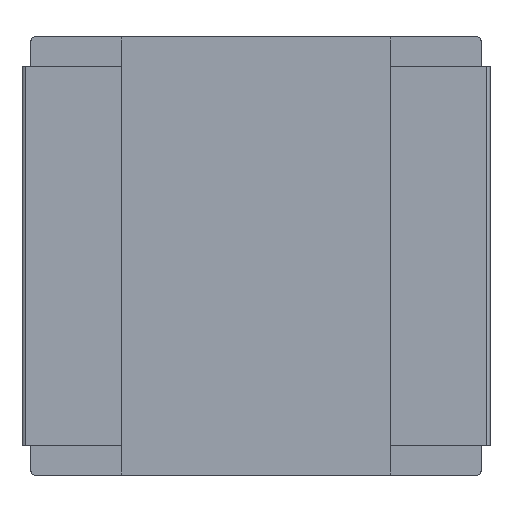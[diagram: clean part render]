
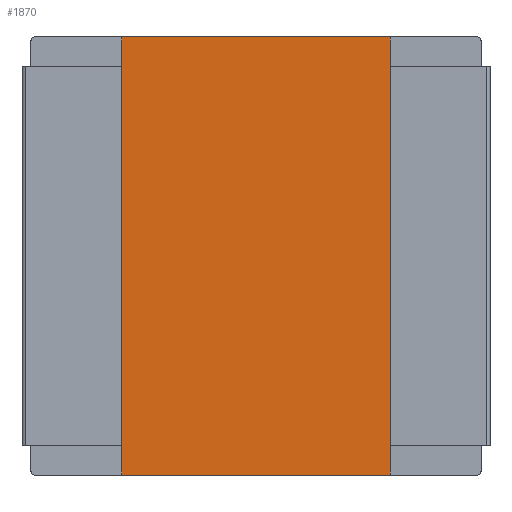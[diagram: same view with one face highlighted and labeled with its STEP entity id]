
A CAD part, front view. The second image highlights one B-rep face of the part: STEP entity #1870.
In plain terms, the highlighted planar face has unit normal (0, -1, 0).
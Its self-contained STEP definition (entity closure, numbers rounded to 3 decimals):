
#140 = CARTESIAN_POINT ( 'NONE',  ( -6.75, 0., 0. ) ) ;
#199 = DIRECTION ( 'NONE',  ( 0., 0., 1. ) ) ;
#207 = LINE ( 'NONE', #4783, #3518 ) ;
#230 = LINE ( 'NONE', #5365, #3666 ) ;
#411 = VECTOR ( 'NONE', #2734, 1000. ) ;
#440 = DIRECTION ( 'NONE',  ( 0., 1., 0. ) ) ;
#546 = EDGE_CURVE ( 'NONE', #1547, #1427, #230, .T. ) ;
#592 = DIRECTION ( 'NONE',  ( 0., 0., 1. ) ) ;
#610 = CARTESIAN_POINT ( 'NONE',  ( -6.75, 0., -11. ) ) ;
#739 = VECTOR ( 'NONE', #199, 1000. ) ;
#782 = CARTESIAN_POINT ( 'NONE',  ( -6.75, 0., 0. ) ) ;
#871 = CARTESIAN_POINT ( 'NONE',  ( 0., 0., 0. ) ) ;
#1121 = VERTEX_POINT ( 'NONE', #1755 ) ;
#1188 = LINE ( 'NONE', #140, #4346 ) ;
#1284 = VERTEX_POINT ( 'NONE', #3389 ) ;
#1427 = VERTEX_POINT ( 'NONE', #2633 ) ;
#1547 = VERTEX_POINT ( 'NONE', #3564 ) ;
#1712 = VERTEX_POINT ( 'NONE', #4181 ) ;
#1718 = CARTESIAN_POINT ( 'NONE',  ( -11.3, 0., -11. ) ) ;
#1755 = CARTESIAN_POINT ( 'NONE',  ( 6.75, 0., 11. ) ) ;
#1867 = LINE ( 'NONE', #782, #3943 ) ;
#1870 = ADVANCED_FACE ( 'NONE', ( #2713 ), #2151, .F. ) ;
#2035 = LINE ( 'NONE', #3080, #3267 ) ;
#2103 = EDGE_CURVE ( 'NONE', #2118, #5345, #1867, .T. ) ;
#2118 = VERTEX_POINT ( 'NONE', #5072 ) ;
#2151 = PLANE ( 'NONE',  #2885 ) ;
#2316 = ORIENTED_EDGE ( 'NONE', *, *, #2674, .F. ) ;
#2329 = DIRECTION ( 'NONE',  ( 0., 0., 1. ) ) ;
#2351 = VECTOR ( 'NONE', #3756, 1000. ) ;
#2417 = EDGE_LOOP ( 'NONE', ( #4201, #3410, #2801, #2316, #4104, #2799, #4691, #2453 ) ) ;
#2453 = ORIENTED_EDGE ( 'NONE', *, *, #3631, .F. ) ;
#2489 = LINE ( 'NONE', #5198, #411 ) ;
#2633 = CARTESIAN_POINT ( 'NONE',  ( 6.75, 0., 9.5 ) ) ;
#2674 = EDGE_CURVE ( 'NONE', #1712, #1121, #2489, .T. ) ;
#2713 = FACE_OUTER_BOUND ( 'NONE', #2417, .T. ) ;
#2734 = DIRECTION ( 'NONE',  ( 1., 0., 0. ) ) ;
#2799 = ORIENTED_EDGE ( 'NONE', *, *, #2103, .F. ) ;
#2801 = ORIENTED_EDGE ( 'NONE', *, *, #3464, .T. ) ;
#2885 = AXIS2_PLACEMENT_3D ( 'NONE', #871, #440, #5109 ) ;
#2908 = EDGE_CURVE ( 'NONE', #1284, #1547, #4726, .T. ) ;
#3080 = CARTESIAN_POINT ( 'NONE',  ( 6.75, 0., -12.5 ) ) ;
#3267 = VECTOR ( 'NONE', #592, 1000. ) ;
#3389 = CARTESIAN_POINT ( 'NONE',  ( 6.75, 0., -11. ) ) ;
#3410 = ORIENTED_EDGE ( 'NONE', *, *, #546, .T. ) ;
#3416 = EDGE_CURVE ( 'NONE', #4653, #2118, #1188, .T. ) ;
#3464 = EDGE_CURVE ( 'NONE', #1427, #1121, #2035, .T. ) ;
#3518 = VECTOR ( 'NONE', #2329, 1000. ) ;
#3564 = CARTESIAN_POINT ( 'NONE',  ( 6.75, 0., -9.5 ) ) ;
#3631 = EDGE_CURVE ( 'NONE', #1284, #4653, #4662, .T. ) ;
#3666 = VECTOR ( 'NONE', #4186, 1000. ) ;
#3756 = DIRECTION ( 'NONE',  ( -1., 0., 0. ) ) ;
#3868 = CARTESIAN_POINT ( 'NONE',  ( -6.75, 0., 9.5 ) ) ;
#3887 = EDGE_CURVE ( 'NONE', #5345, #1712, #207, .T. ) ;
#3915 = CARTESIAN_POINT ( 'NONE',  ( 6.75, 0., -12.5 ) ) ;
#3943 = VECTOR ( 'NONE', #4240, 1000. ) ;
#4104 = ORIENTED_EDGE ( 'NONE', *, *, #3887, .F. ) ;
#4181 = CARTESIAN_POINT ( 'NONE',  ( -6.75, 0., 11. ) ) ;
#4186 = DIRECTION ( 'NONE',  ( 0., 0., 1. ) ) ;
#4201 = ORIENTED_EDGE ( 'NONE', *, *, #2908, .T. ) ;
#4240 = DIRECTION ( 'NONE',  ( 0., 0., 1. ) ) ;
#4346 = VECTOR ( 'NONE', #5102, 1000. ) ;
#4653 = VERTEX_POINT ( 'NONE', #610 ) ;
#4662 = LINE ( 'NONE', #1718, #2351 ) ;
#4691 = ORIENTED_EDGE ( 'NONE', *, *, #3416, .F. ) ;
#4726 = LINE ( 'NONE', #3915, #739 ) ;
#4783 = CARTESIAN_POINT ( 'NONE',  ( -6.75, 0., 0. ) ) ;
#5072 = CARTESIAN_POINT ( 'NONE',  ( -6.75, 0., -9.5 ) ) ;
#5102 = DIRECTION ( 'NONE',  ( 0., 0., 1. ) ) ;
#5109 = DIRECTION ( 'NONE',  ( 0., 0., 1. ) ) ;
#5198 = CARTESIAN_POINT ( 'NONE',  ( -11.3, 0., 11. ) ) ;
#5345 = VERTEX_POINT ( 'NONE', #3868 ) ;
#5365 = CARTESIAN_POINT ( 'NONE',  ( 6.75, 0., 0. ) ) ;
